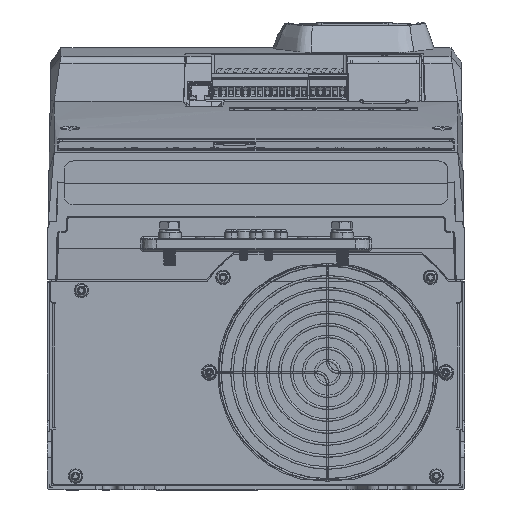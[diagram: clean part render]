
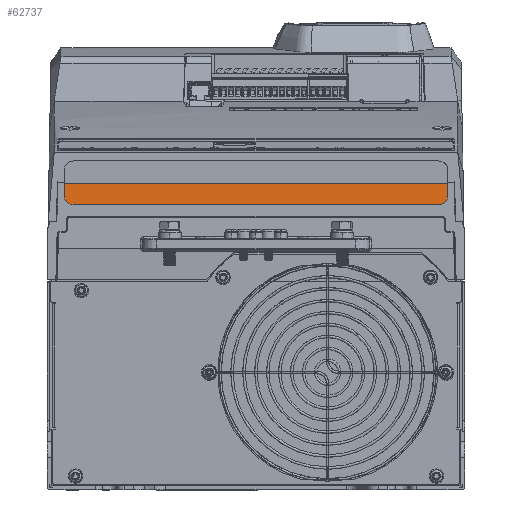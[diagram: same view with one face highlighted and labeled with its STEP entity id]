
A CAD part, front view. The second image highlights one B-rep face of the part: STEP entity #62737.
In plain terms, the highlighted planar face has unit normal (0, -0.999, 0.046).
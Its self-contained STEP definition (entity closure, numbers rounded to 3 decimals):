
#1774 = PLANE ( 'NONE',  #153251 ) ;
#3301 = VERTEX_POINT ( 'NONE', #313572 ) ;
#19751 = CARTESIAN_POINT ( 'NONE',  ( -128.656, -269.928, 193.709 ) ) ;
#20631 = VERTEX_POINT ( 'NONE', #146023 ) ;
#22255 = EDGE_CURVE ( 'NONE', #103601, #3301, #35023, .T. ) ;
#23205 = CARTESIAN_POINT ( 'NONE',  ( -125.19, -269.928, 193.709 ) ) ;
#26572 = VERTEX_POINT ( 'NONE', #307643 ) ;
#28642 = DIRECTION ( 'NONE',  ( -0.017, 0.046, 0.999 ) ) ;
#30366 = CARTESIAN_POINT ( 'NONE',  ( -131.656, -268.427, 226.343 ) ) ;
#35023 = LINE ( 'NONE', #329209, #186261 ) ;
#37216 = CARTESIAN_POINT ( 'NONE',  ( 131.189, -269.657, 199.6 ) ) ;
#47732 = CARTESIAN_POINT ( 'NONE',  ( -131.189, -269.657, 199.6 ) ) ;
#51562 = CARTESIAN_POINT ( 'NONE',  ( 125.19, -269.928, 193.709 ) ) ;
#53652 = CARTESIAN_POINT ( 'NONE',  ( 131.344, -269.248, 208.5 ) ) ;
#56161 = DIRECTION ( 'NONE',  ( -1., 0., 0. ) ) ;
#57196 = EDGE_CURVE ( 'NONE', #26572, #20631, #270194, .T. ) ;
#57479 = ORIENTED_EDGE ( 'NONE', *, *, #245712, .F. ) ;
#62737 = ADVANCED_FACE ( 'NONE', ( #241624 ), #1774, .T. ) ;
#75883 = EDGE_CURVE ( 'NONE', #346018, #20631, #181973, .T. ) ;
#79155 = CARTESIAN_POINT ( 'NONE',  ( -131.128, -269.817, 196.137 ) ) ;
#89146 = DIRECTION ( 'NONE',  ( 0., -0.999, 0.046 ) ) ;
#103601 = VERTEX_POINT ( 'NONE', #262971 ) ;
#127230 = ORIENTED_EDGE ( 'NONE', *, *, #22255, .F. ) ;
#128669 = CARTESIAN_POINT ( 'NONE',  ( 131.189, -269.657, 199.6 ) ) ;
#132848 = DIRECTION ( 'NONE',  ( -1., 0., 0. ) ) ;
#139771 = LINE ( 'NONE', #332309, #262778 ) ;
#146023 = CARTESIAN_POINT ( 'NONE',  ( -131.344, -269.248, 208.5 ) ) ;
#147124 = EDGE_CURVE ( 'NONE', #346018, #284636, #139771, .T. ) ;
#153251 = AXIS2_PLACEMENT_3D ( 'NONE', #166300, #89146, #195998 ) ;
#159915 = EDGE_LOOP ( 'NONE', ( #302422, #311492, #205175, #184477, #127230, #57479 ) ) ;
#166300 = CARTESIAN_POINT ( 'NONE',  ( -137., -272.197, 144.38 ) ) ;
#181973 = LINE ( 'NONE', #211645, #272454 ) ;
#184477 = ORIENTED_EDGE ( 'NONE', *, *, #295523, .F. ) ;
#186261 = VECTOR ( 'NONE', #56161, 1000. ) ;
#191854 =( BOUNDED_CURVE ( )  B_SPLINE_CURVE ( 3, ( #128669, #314310, #235439, #51562 ),
 .UNSPECIFIED., .F., .T. ) 
 B_SPLINE_CURVE_WITH_KNOTS ( ( 4, 4 ),
 ( 1.588, 3.142 ),
 .UNSPECIFIED. ) 
 CURVE ( )  GEOMETRIC_REPRESENTATION_ITEM ( )  RATIONAL_B_SPLINE_CURVE ( ( 1., 0.809, 0.809, 1. ) ) 
 REPRESENTATION_ITEM ( '' )  );
#195998 = DIRECTION ( 'NONE',  ( -1., 0., 0. ) ) ;
#205175 = ORIENTED_EDGE ( 'NONE', *, *, #57196, .F. ) ;
#211645 = CARTESIAN_POINT ( 'NONE',  ( -137., -269.248, 208.5 ) ) ;
#235439 = CARTESIAN_POINT ( 'NONE',  ( 128.656, -269.928, 193.709 ) ) ;
#237794 =( BOUNDED_CURVE ( )  B_SPLINE_CURVE ( 3, ( #23205, #19751, #79155, #47732 ),
 .UNSPECIFIED., .F., .T. ) 
 B_SPLINE_CURVE_WITH_KNOTS ( ( 4, 4 ),
 ( 3.142, 4.695 ),
 .UNSPECIFIED. ) 
 CURVE ( )  GEOMETRIC_REPRESENTATION_ITEM ( )  RATIONAL_B_SPLINE_CURVE ( ( 1., 0.809, 0.809, 1. ) ) 
 REPRESENTATION_ITEM ( '' )  );
#241624 = FACE_OUTER_BOUND ( 'NONE', #159915, .T. ) ;
#245712 = EDGE_CURVE ( 'NONE', #284636, #103601, #191854, .T. ) ;
#251685 = DIRECTION ( 'NONE',  ( -0.017, -0.046, -0.999 ) ) ;
#262778 = VECTOR ( 'NONE', #251685, 1000. ) ;
#262971 = CARTESIAN_POINT ( 'NONE',  ( 125.19, -269.928, 193.709 ) ) ;
#270194 = LINE ( 'NONE', #30366, #275881 ) ;
#272454 = VECTOR ( 'NONE', #132848, 1000. ) ;
#275881 = VECTOR ( 'NONE', #28642, 1000. ) ;
#284636 = VERTEX_POINT ( 'NONE', #37216 ) ;
#295523 = EDGE_CURVE ( 'NONE', #3301, #26572, #237794, .T. ) ;
#302422 = ORIENTED_EDGE ( 'NONE', *, *, #147124, .F. ) ;
#307643 = CARTESIAN_POINT ( 'NONE',  ( -131.189, -269.657, 199.6 ) ) ;
#311492 = ORIENTED_EDGE ( 'NONE', *, *, #75883, .T. ) ;
#313572 = CARTESIAN_POINT ( 'NONE',  ( -125.19, -269.928, 193.709 ) ) ;
#314310 = CARTESIAN_POINT ( 'NONE',  ( 131.128, -269.817, 196.137 ) ) ;
#329209 = CARTESIAN_POINT ( 'NONE',  ( -131.086, -269.928, 193.709 ) ) ;
#332309 = CARTESIAN_POINT ( 'NONE',  ( 131.22, -269.576, 201.38 ) ) ;
#346018 = VERTEX_POINT ( 'NONE', #53652 ) ;
